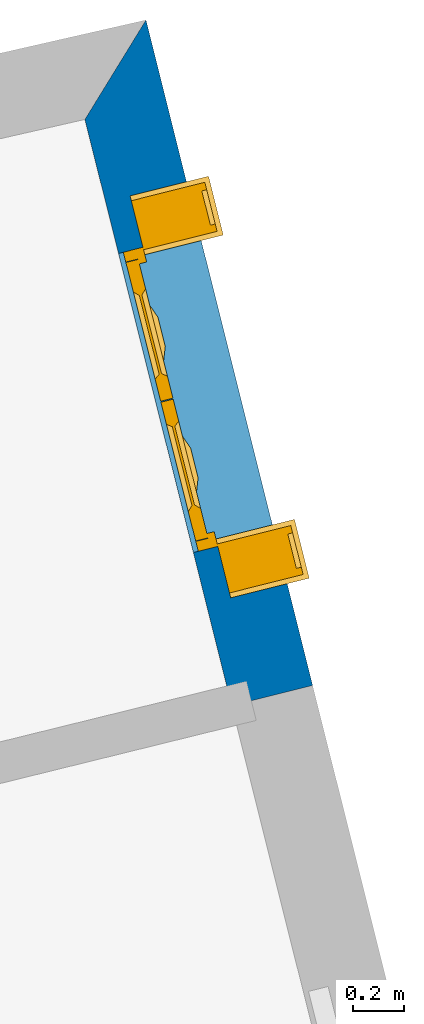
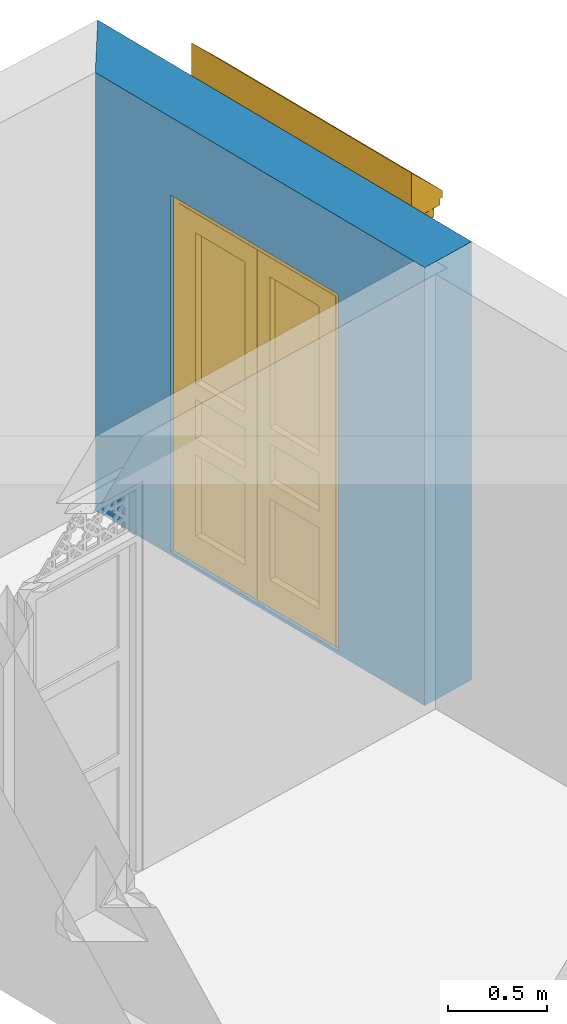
# One storey, part 11 of 12: 1 door, 1 wall, 1 opening.
"""IFC4 building model written with IfcOpenShell, lengths in metres."""

from ifc_helpers import new_model, si_unit, frame, origin, origin_with_axes, place, context, subcontext, project, spatial, polyline, outline, extrude, faceted_brep, source, transform, mapped, material, layer, layer_set, layer_usage, type_object, type_shapes, element, fill, save


model = new_model("IFC4")

# Units and contexts
model_context = context("Model", 3, world=origin_with_axes())
body_context = subcontext(model_context, "Body", "Model", "MODEL_VIEW")
ifc_project = project(units=[si_unit("PLANEANGLEUNIT", "RADIAN"), si_unit("MASSUNIT", "GRAM", prefix="KILO"), si_unit("FORCEUNIT", "NEWTON", prefix="KILO"), si_unit("LENGTHUNIT", "METRE"), si_unit("AREAUNIT", "SQUARE_METRE"), si_unit("VOLUMEUNIT", "CUBIC_METRE")], contexts=[model_context, model_context])

# Site, building, storey
site_placement = place(None, origin_with_axes())
site = spatial("IfcSite", under=ifc_project, at=site_placement, Name="Site plot-1", CompositionType="ELEMENT")
building_placement = place(None, origin_with_axes())
building = spatial("IfcBuilding", under=site, at=building_placement, Name="Building plot-1", CompositionType="ELEMENT")
storey_placement = place(None, origin_with_axes())
storey = spatial("IfcBuildingStorey", under=building, at=storey_placement, Name="plot-1 0", CompositionType="ELEMENT", Elevation=0.0)

# Wall, opening, door
ifc_material = material(Name="Masonry")
ifc_layer = layer(ifc_material, 0.33, ventilated=False)
ifc_layer_set = layer_set([ifc_layer], Name="exterior_0.08_0.25")
ifc_layer_usage = layer_usage(ifc_layer_set, "AXIS2", "POSITIVE", -0.25)
wall_type = type_object("IfcWallType", Name="exterior_0.08_0.25", PredefinedType="SOLIDWALL", material=ifc_layer_set)
wall_placement = place(storey_placement, frame((4.85901537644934, 24.6384675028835, 0.0), z_axis=(0.0, 0.0, 1.0), x_axis=(-0.242972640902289, 0.970033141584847, 0.0)))
wall = element("IfcWall", 1, at=wall_placement, inside=storey, type_object=wall_type, material=ifc_layer_usage, Name="exterior", context=body_context, shape_type="SweptSolid", body=[
    extrude(outline(polyline([(-4.03663485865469e-16, 0.0800000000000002), (1.56962031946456e-15, -0.249999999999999), (2.71479981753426, -0.25), (2.39181178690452, 0.0800000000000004), (-4.03663485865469e-16, 0.0800000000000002)])), origin_with_axes(), (0.0, 0.0, 1.0), 2.7),
])
opening_placement = place(wall_placement, frame((0.625055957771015, 0.0, 0.02)))
opening = element("IfcOpeningElement", 2, at=opening_placement, cuts=wall, Name="My Opening", ObjectType="Opening", context=body_context, shape_type="SweptSolid", body=[
    extrude(outline(polyline([(0.0, -0.27), (1.22, -0.270000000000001), (1.22, 1.1), (-3.77475828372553e-15, 1.1), (0.0, -0.27)])), origin_with_axes(), (0.0, 0.0, 1.0), 2.2),
])
door_type = type_object("IfcDoorType", Name="tunis_entry_short", OperationType="SINGLE_SWING_LEFT", PredefinedType="NOTDEFINED")
shared_shape = source(origin(), body_context, "Body", "Brep", [
    faceted_brep([(0.608, 0.33, 2.158), (0.042, 0.33, 2.158), (0.042, 0.28, 2.158), (0.608, 0.28, 2.158), (0.518, 0.33, 2.038), (0.162, 0.33, 2.038), (0.608, 0.33, 1.11), (0.608, 0.28, 1.11), (0.162, 0.28, 2.038), (0.518, 0.28, 2.038), (0.042, 0.33, 1.11), (0.042, 0.28, 1.11), (0.503, 0.31, 2.018), (0.182, 0.31, 2.018), (0.518, 0.33, 1.11), (0.162, 0.33, 1.11), (0.608, 0.28, 1.01), (0.608, 0.33, 1.01), (0.518, 0.28, 1.11), (0.182, 0.3, 2.018), (0.503, 0.3, 2.018), (0.162, 0.28, 1.11), (0.042, 0.33, 1.01), (0.042, 0.28, 1.01), (0.182, 0.31, 1.13), (0.503, 0.31, 1.13), (0.518, 0.33, 1.01), (0.162, 0.33, 1.01), (0.608, 0.28, 0.77), (0.608, 0.33, 0.77), (0.518, 0.28, 1.01), (0.503, 0.3, 1.13), (0.182, 0.3, 1.13), (0.162, 0.28, 1.01), (0.042, 0.33, 0.77), (0.042, 0.28, 0.77), (0.518, 0.33, 0.77), (0.162, 0.33, 0.77), (0.608, 0.28, 0.67), (0.608, 0.33, 0.67), (0.518, 0.28, 0.77), (0.162, 0.28, 0.77), (0.042, 0.33, 0.67), (0.042, 0.28, 0.67), (0.503, 0.31, 0.99), (0.182, 0.31, 0.99), (0.503, 0.31, 0.79), (0.518, 0.33, 0.67), (0.162, 0.33, 0.67), (0.182, 0.31, 0.79), (0.608, 0.33, 0.0), (0.608, 0.28, 0.0), (0.518, 0.28, 0.67), (0.503, 0.3, 0.99), (0.503, 0.3, 0.79), (0.182, 0.3, 0.99), (0.182, 0.3, 0.79), (0.162, 0.28, 0.67), (0.042, 0.28, 0.0), (0.042, 0.33, 0.0), (0.518, 0.33, 0.17), (0.162, 0.33, 0.17), (0.518, 0.28, 0.17), (0.483, 0.3, 0.97), (0.483, 0.3, 0.81), (0.202, 0.3, 0.97), (0.202, 0.3, 0.81), (0.162, 0.28, 0.17), (0.503, 0.31, 0.65), (0.182, 0.31, 0.65), (0.503, 0.31, 0.19), (0.182, 0.31, 0.19), (0.503, 0.3, 0.65), (0.503, 0.3, 0.19), (0.182, 0.3, 0.65), (0.483, 0.29, 0.97), (0.483, 0.29, 0.81), (0.202, 0.29, 0.97), (0.202, 0.29, 0.81), (0.182, 0.3, 0.19), (0.403, 0.26, 0.89), (0.282, 0.26, 0.89), (1.178, 0.33, 2.158), (0.612, 0.33, 2.158), (0.612, 0.28, 2.158), (1.178, 0.28, 2.158), (1.058, 0.33, 2.038), (0.702, 0.33, 2.038), (0.612, 0.33, 1.11), (0.612, 0.28, 1.11), (0.702, 0.28, 2.038), (1.058, 0.28, 2.038), (1.178, 0.28, 1.11), (1.178, 0.33, 1.11), (1.038, 0.31, 2.018), (0.717, 0.31, 2.018), (0.702, 0.33, 1.11), (1.058, 0.33, 1.11), (0.612, 0.33, 1.01), (0.612, 0.28, 1.01), (0.702, 0.28, 1.11), (0.717, 0.3, 2.018), (1.038, 0.3, 2.018), (1.058, 0.28, 1.11), (1.178, 0.28, 1.01), (1.178, 0.33, 1.01), (1.038, 0.31, 1.13), (0.717, 0.31, 1.13), (0.702, 0.33, 1.01), (1.058, 0.33, 1.01), (0.612, 0.33, 0.77), (0.612, 0.28, 0.77), (0.702, 0.28, 1.01), (0.717, 0.3, 1.13), (1.038, 0.3, 1.13), (1.058, 0.28, 1.01), (1.178, 0.28, 0.77), (1.178, 0.33, 0.77), (0.702, 0.33, 0.77), (1.058, 0.33, 0.77), (0.612, 0.33, 0.67), (0.612, 0.28, 0.67), (0.702, 0.28, 0.77), (1.058, 0.28, 0.77), (1.178, 0.28, 0.67), (1.178, 0.33, 0.67), (1.038, 0.31, 0.99), (0.717, 0.31, 0.99), (0.717, 0.31, 0.79), (0.702, 0.33, 0.67), (1.058, 0.33, 0.67), (1.038, 0.31, 0.79), (0.612, 0.28, 0.0), (0.612, 0.33, 0.0), (0.702, 0.28, 0.67), (0.717, 0.3, 0.79), (0.717, 0.3, 0.99), (1.038, 0.3, 0.99), (1.038, 0.3, 0.79), (1.058, 0.28, 0.67), (1.178, 0.33, 0.0), (1.178, 0.28, 0.0), (0.702, 0.33, 0.17), (1.058, 0.33, 0.17), (0.702, 0.28, 0.17), (0.737, 0.3, 0.81), (0.737, 0.3, 0.97), (1.018, 0.3, 0.97), (1.018, 0.3, 0.81), (1.058, 0.28, 0.17), (1.038, 0.31, 0.65), (0.717, 0.31, 0.65), (0.717, 0.31, 0.19), (1.038, 0.31, 0.19), (0.717, 0.3, 0.19), (0.717, 0.3, 0.65), (1.038, 0.3, 0.65), (0.737, 0.29, 0.81), (0.737, 0.29, 0.97), (1.018, 0.29, 0.97), (1.018, 0.29, 0.81), (1.038, 0.3, 0.19), (0.817, 0.26, 0.89), (0.938, 0.26, 0.89), (1.37, -0.058, 2.42), (1.37, -0.045, 2.407001), (1.41, -0.045, 2.407001), (1.41, -0.058, 2.42), (1.37, -0.075, 2.485001), (1.37, 0.0, 2.485001), (1.37, -0.04, 2.39), (1.41, -0.04, 2.39), (1.41, 0.0, 2.485001), (1.41, -0.075, 2.485001), (1.37, -0.075, 2.425), (1.41, -0.075, 2.425), (1.37, -0.082, 2.51), (1.37, 0.0, 2.59), (1.37, 0.0, 2.39), (1.41, 0.0, 2.39), (1.41, 0.0, 2.59), (1.41, -0.082, 2.51), (1.37, -0.1, 2.528), (1.41, -0.1, 2.528), (1.37, -0.125, 2.535), (1.37, -0.137, 2.59), (1.41, -0.137, 2.59), (1.41, -0.125, 2.535), (1.37, -0.137, 2.535), (1.41, -0.137, 2.535), (1.214, -0.058, 2.42), (1.214, -0.045, 2.407001), (1.254, -0.045, 2.407001), (1.254, -0.058, 2.42), (1.214, -0.075, 2.485001), (1.214, 0.0, 2.485001), (1.214, -0.04, 2.39), (1.254, -0.04, 2.39), (1.254, 0.0, 2.485001), (1.254, -0.075, 2.485001), (1.214, -0.075, 2.425), (1.254, -0.075, 2.425), (1.214, -0.082, 2.51), (1.214, 0.0, 2.59), (1.214, 0.0, 2.39), (1.254, 0.0, 2.39), (1.254, 0.0, 2.59), (1.254, -0.082, 2.51), (1.214, -0.1, 2.528), (1.254, -0.1, 2.528), (1.214, -0.125, 2.535), (1.214, -0.137, 2.59), (1.254, -0.137, 2.59), (1.254, -0.125, 2.535), (1.214, -0.137, 2.535), (1.254, -0.137, 2.535), (1.058, -0.058, 2.42), (1.058, -0.045, 2.407001), (1.098, -0.045, 2.407001), (1.098, -0.058, 2.42), (1.058, -0.075, 2.485001), (1.058, 0.0, 2.485001), (1.058, -0.04, 2.39), (1.098, -0.04, 2.39), (1.098, 0.0, 2.485001), (1.098, -0.075, 2.485001), (1.058, -0.075, 2.425), (1.098, -0.075, 2.425), (1.058, -0.082, 2.51), (1.058, 0.0, 2.59), (1.058, 0.0, 2.39), (1.098, 0.0, 2.39), (1.098, 0.0, 2.59), (1.098, -0.082, 2.51), (1.058, -0.1, 2.528), (1.098, -0.1, 2.528), (1.058, -0.125, 2.535), (1.058, -0.137, 2.59), (1.098, -0.137, 2.59), (1.098, -0.125, 2.535), (1.058, -0.137, 2.535), (1.098, -0.137, 2.535), (0.902, -0.058, 2.42), (0.902, -0.045, 2.407001), (0.942, -0.045, 2.407001), (0.942, -0.058, 2.42), (0.902, -0.075, 2.485001), (0.902, 0.0, 2.485001), (0.902, -0.04, 2.39), (0.942, -0.04, 2.39), (0.942, 0.0, 2.485001), (0.942, -0.075, 2.485001), (0.902, -0.075, 2.425), (0.942, -0.075, 2.425), (0.902, -0.082, 2.51), (0.902, 0.0, 2.59), (0.902, 0.0, 2.39), (0.942, 0.0, 2.39), (0.942, 0.0, 2.59), (0.942, -0.082, 2.51), (0.902, -0.1, 2.528), (0.942, -0.1, 2.528), (0.902, -0.125, 2.535), (0.902, -0.137, 2.59), (0.942, -0.137, 2.59), (0.942, -0.125, 2.535), (0.902, -0.137, 2.535), (0.942, -0.137, 2.535), (0.746, -0.058, 2.42), (0.746, -0.045, 2.407001), (0.786, -0.045, 2.407001), (0.786, -0.058, 2.42), (0.746, -0.075, 2.485001), (0.746, 0.0, 2.485001), (0.746, -0.04, 2.39), (0.786, -0.04, 2.39), (0.786, 0.0, 2.485001), (0.786, -0.075, 2.485001), (0.746, -0.075, 2.425), (0.786, -0.075, 2.425), (0.746, -0.082, 2.51), (0.746, 0.0, 2.59), (0.746, 0.0, 2.39), (0.786, 0.0, 2.39), (0.786, 0.0, 2.59), (0.786, -0.082, 2.51), (0.746, -0.1, 2.528), (0.786, -0.1, 2.528), (0.746, -0.125, 2.535), (0.746, -0.137, 2.59), (0.786, -0.137, 2.59), (0.786, -0.125, 2.535), (0.746, -0.137, 2.535), (0.786, -0.137, 2.535), (0.59, -0.058, 2.42), (0.59, -0.045, 2.407001), (0.63, -0.045, 2.407001), (0.63, -0.058, 2.42), (0.59, -0.075, 2.485001), (0.59, 0.0, 2.485001), (0.59, -0.04, 2.39), (0.63, -0.04, 2.39), (0.63, 0.0, 2.485001), (0.63, -0.075, 2.485001), (0.59, -0.075, 2.425), (0.63, -0.075, 2.425), (0.59, -0.082, 2.51), (0.59, 0.0, 2.59), (0.59, 0.0, 2.39), (0.63, 0.0, 2.39), (0.63, 0.0, 2.59), (0.63, -0.082, 2.51), (0.59, -0.1, 2.528), (0.63, -0.1, 2.528), (0.59, -0.125, 2.535), (0.59, -0.137, 2.59), (0.63, -0.137, 2.59), (0.63, -0.125, 2.535), (0.59, -0.137, 2.535), (0.63, -0.137, 2.535), (0.434, -0.058, 2.42), (0.434, -0.045, 2.407001), (0.474, -0.045, 2.407001), (0.474, -0.058, 2.42), (0.434, -0.075, 2.485001), (0.434, 0.0, 2.485001), (0.434, -0.04, 2.39), (0.474, -0.04, 2.39), (0.474, 0.0, 2.485001), (0.474, -0.075, 2.485001), (0.434, -0.075, 2.425), (0.474, -0.075, 2.425), (0.434, -0.082, 2.51), (0.434, 0.0, 2.59), (0.434, 0.0, 2.39), (0.474, 0.0, 2.39), (0.474, 0.0, 2.59), (0.474, -0.082, 2.51), (0.434, -0.1, 2.528), (0.474, -0.1, 2.528), (0.434, -0.125, 2.535), (0.434, -0.137, 2.59), (0.474, -0.137, 2.59), (0.474, -0.125, 2.535), (0.434, -0.137, 2.535), (0.474, -0.137, 2.535), (0.278, -0.058, 2.42), (0.278, -0.045, 2.407001), (0.318, -0.045, 2.407001), (0.318, -0.058, 2.42), (0.278, -0.075, 2.485001), (0.278, 0.0, 2.485001), (0.278, -0.04, 2.39), (0.318, -0.04, 2.39), (0.318, 0.0, 2.485001), (0.318, -0.075, 2.485001), (0.278, -0.075, 2.425), (0.318, -0.075, 2.425), (0.278, -0.082, 2.51), (0.278, 0.0, 2.59), (0.278, 0.0, 2.39), (0.318, 0.0, 2.39), (0.318, 0.0, 2.59), (0.318, -0.082, 2.51), (0.278, -0.1, 2.528), (0.318, -0.1, 2.528), (0.278, -0.125, 2.535), (0.278, -0.137, 2.59), (0.318, -0.137, 2.59), (0.318, -0.125, 2.535), (0.278, -0.137, 2.535), (0.318, -0.137, 2.535), (0.122, -0.058, 2.42), (0.122, -0.045, 2.407001), (0.162, -0.045, 2.407001), (0.162, -0.058, 2.42), (0.122, -0.075, 2.485001), (0.122, 0.0, 2.485001), (0.122, -0.04, 2.39), (0.162, -0.04, 2.39), (0.162, 0.0, 2.485001), (0.162, -0.075, 2.485001), (0.122, -0.075, 2.425), (0.162, -0.075, 2.425), (0.122, -0.082, 2.51), (0.122, 0.0, 2.59), (0.122, 0.0, 2.39), (0.162, 0.0, 2.39), (0.162, 0.0, 2.59), (0.162, -0.082, 2.51), (0.122, -0.1, 2.528), (0.162, -0.1, 2.528), (0.122, -0.125, 2.535), (0.122, -0.137, 2.59), (0.162, -0.137, 2.59), (0.162, -0.125, 2.535), (0.122, -0.137, 2.535), (0.162, -0.137, 2.535), (-0.034, -0.058, 2.42), (-0.034, -0.045, 2.407001), (0.006, -0.045, 2.407001), (0.006, -0.058, 2.42), (-0.034, -0.075, 2.485001), (-0.034, 0.0, 2.485001), (-0.034, -0.04, 2.39), (0.006, -0.04, 2.39), (0.006, 0.0, 2.485001), (0.006, -0.075, 2.485001), (-0.034, -0.075, 2.425), (0.006, -0.075, 2.425), (-0.034, -0.082, 2.51), (-0.034, 0.0, 2.59), (-0.034, 0.0, 2.39), (0.006, 0.0, 2.39), (0.006, 0.0, 2.59), (0.006, -0.082, 2.51), (-0.034, -0.1, 2.528), (0.006, -0.1, 2.528), (-0.034, -0.125, 2.535), (-0.034, -0.137, 2.59), (0.006, -0.137, 2.59), (0.006, -0.125, 2.535), (-0.034, -0.137, 2.535), (0.006, -0.137, 2.535), (-0.19, -0.058, 2.42), (-0.19, -0.045, 2.407001), (-0.15, -0.045, 2.407001), (-0.15, -0.058, 2.42), (-0.19, -0.075, 2.485001), (-0.19, 0.0, 2.485001), (-0.19, -0.04, 2.39), (-0.15, -0.04, 2.39), (-0.15, 0.0, 2.485001), (-0.15, -0.075, 2.485001), (-0.19, -0.075, 2.425), (-0.15, -0.075, 2.425), (-0.19, -0.082, 2.51), (-0.19, 0.0, 2.59), (-0.19, 0.0, 2.39), (-0.15, 0.0, 2.39), (-0.15, 0.0, 2.59), (-0.15, -0.082, 2.51), (-0.19, -0.1, 2.528), (-0.15, -0.1, 2.528), (-0.19, -0.125, 2.535), (-0.19, -0.137, 2.59), (-0.15, -0.137, 2.59), (-0.15, -0.125, 2.535), (-0.19, -0.137, 2.535), (-0.15, -0.137, 2.535), (1.18, 0.33, 0.0), (1.18, 0.33, 2.16), (1.22, 0.33, 2.2), (1.22, 0.33, 0.0), (1.18, 0.28, 0.0), (1.18, 0.28, 2.16), (1.22, 0.25, 2.2), (1.22, 0.25, 0.0), (1.16, 0.28, 0.0), (1.16, 0.28, 2.14), (0.04, 0.28, 2.16), (0.04, 0.33, 2.16), (1.16, 0.25, 2.14), (1.16, 0.25, 0.0), (0.06, 0.28, 2.14), (0.04, 0.33, 0.0), (0.04, 0.28, 0.0), (0.0, 0.33, 2.2), (0.06, 0.25, 2.14), (0.06, 0.28, 0.0), (0.0, 0.33, 0.0), (0.0, 0.25, 0.0), (0.0, 0.25, 2.2), (0.06, 0.25, 0.0), (-0.19, -0.197, 2.67), (-0.19, 0.020086, 2.882274), (-0.19, -0.177, 2.63), (-0.19, -0.197, 2.63), (1.41, -0.197, 2.67), (1.41, 0.020086, 2.882274), (-0.19, -0.177, 2.59), (-0.19, 0.020086, 2.592274), (1.41, -0.197, 2.63), (1.41, -0.177, 2.63), (1.41, 0.020086, 2.592274), (1.41, -0.177, 2.59), (-0.02, -0.05, 0.48), (-0.16, -0.05, 0.48), (-0.19, -0.05, 0.45), (0.01, -0.05, 0.45), (-0.02, -0.03, 0.48), (-0.16, -0.03, 0.48), (-0.16, -0.05, 2.19), (-0.19, -0.05, 2.19), (-0.21, -0.07, 0.45), (0.03, -0.07, 0.45), (0.01, -0.05, 2.19), (-0.02, -0.05, 2.19), (-0.02, -0.03, 2.19), (-0.16, -0.03, 2.19), (-0.19, -0.05, 2.22), (-0.16, -0.05, 2.22), (-0.19, 0.25, 2.19), (-0.19, 0.25, 0.45), (-0.21, 0.25, 0.45), (-0.21, -0.07, 0.0), (0.03, -0.07, 0.0), (0.01, 0.25, 0.45), (0.03, 0.25, 0.45), (0.01, 0.25, 2.19), (0.03, 0.25, 0.0), (-0.21, 0.25, 0.0), (-0.02, -0.05, 2.22), (0.01, -0.05, 2.22), (-0.19, 0.25, 2.22), (-0.19, -0.05, 2.39), (-0.16, -0.05, 2.36), (1.21, 0.25, 2.19), (1.21, -0.05, 2.19), (-0.02, 0.25, 2.22), (1.21, -0.05, 2.22), (0.01, -0.05, 2.36), (-0.02, -0.05, 2.36), (-0.19, 0.25, 2.39), (-0.02, -0.03, 2.22), (-0.16, -0.03, 2.22), (-0.16, -0.03, 2.36), (-0.02, -0.05, 2.39), (0.01, 0.25, 2.39), (1.21, 0.25, 2.39), (1.21, 0.25, 0.45), (1.21, -0.05, 0.45), (-0.02, 0.25, 2.39), (1.24, -0.05, 2.19), (1.24, -0.05, 2.22), (1.21, -0.03, 2.22), (0.01, -0.03, 2.22), (0.01, -0.03, 2.36), (0.01, -0.05, 2.39), (-0.02, -0.03, 2.36), (1.21, -0.05, 2.39), (1.24, 0.25, 2.22), (1.24, 0.25, 2.39), (1.41, 0.25, 2.19), (1.41, 0.25, 0.45), (1.19, 0.25, 0.45), (1.19, -0.07, 0.45), (1.24, -0.05, 0.48), (1.38, -0.05, 2.19), (1.38, -0.05, 2.22), (1.21, -0.05, 2.36), (1.24, -0.05, 2.36), (1.21, -0.03, 2.36), (1.24, -0.05, 2.39), (1.41, 0.25, 2.22), (1.41, 0.25, 2.39), (1.41, -0.05, 2.19), (1.41, -0.05, 0.45), (1.43, 0.25, 0.0), (1.19, 0.25, 0.0), (1.19, -0.07, 0.0), (1.43, -0.07, 0.45), (1.24, -0.03, 0.48), (1.24, -0.03, 2.19), (1.38, -0.05, 0.48), (1.38, -0.03, 2.19), (1.41, -0.05, 2.22), (1.38, -0.03, 2.22), (1.24, -0.03, 2.22), (1.24, -0.03, 2.36), (1.41, -0.05, 2.39), (1.43, 0.25, 0.45), (1.43, -0.07, 0.0), (1.38, -0.03, 0.48), (1.38, -0.05, 2.36), (1.38, -0.03, 2.36)], [[[0, 1, 2, 3]], [[1, 0, 4, 5]], [[6, 0, 3, 7]], [[3, 2, 8, 9]], [[1, 10, 11, 2]], [[12, 13, 5, 4]], [[0, 6, 14, 4]], [[5, 15, 10, 1]], [[7, 16, 17, 6]], [[9, 18, 7, 3]], [[19, 20, 9, 8]], [[2, 11, 21, 8]], [[10, 22, 23, 11]], [[13, 24, 15, 5]], [[24, 13, 12, 25]], [[25, 12, 4, 14]], [[26, 14, 6, 17]], [[15, 27, 22, 10]], [[16, 28, 29, 17]], [[16, 7, 18, 30]], [[20, 31, 18, 9]], [[19, 32, 31, 20]], [[32, 19, 8, 21]], [[11, 23, 33, 21]], [[22, 34, 35, 23]], [[24, 25, 14, 15]], [[14, 26, 27, 15]], [[36, 26, 17, 29]], [[27, 37, 34, 22]], [[28, 38, 39, 29]], [[30, 40, 28, 16]], [[30, 18, 21, 33]], [[31, 32, 21, 18]], [[41, 33, 23, 35]], [[34, 42, 43, 35]], [[44, 45, 27, 26]], [[46, 44, 26, 36]], [[29, 39, 47, 36]], [[37, 48, 42, 34]], [[45, 49, 37, 27]], [[50, 39, 38, 51]], [[40, 52, 38, 28]], [[53, 54, 40, 30]], [[55, 53, 30, 33]], [[56, 55, 33, 41]], [[57, 41, 35, 43]], [[58, 43, 42, 59]], [[44, 46, 49, 45]], [[49, 46, 36, 37]], [[36, 47, 48, 37]], [[60, 47, 39, 50]], [[59, 42, 48, 61]], [[51, 38, 52, 62]], [[51, 58, 59, 50]], [[52, 40, 41, 57]], [[54, 56, 41, 40]], [[63, 64, 54, 53]], [[53, 55, 65, 63]], [[55, 56, 66, 65]], [[67, 57, 43, 58]], [[68, 69, 48, 47]], [[70, 68, 47, 60]], [[61, 60, 50, 59]], [[69, 71, 61, 48]], [[72, 73, 62, 52]], [[58, 51, 62, 67]], [[74, 72, 52, 57]], [[64, 66, 56, 54]], [[75, 76, 64, 63]], [[77, 75, 63, 65]], [[78, 77, 65, 66]], [[79, 74, 57, 67]], [[68, 70, 71, 69]], [[71, 70, 60, 61]], [[73, 79, 67, 62]], [[73, 72, 74, 79]], [[76, 78, 66, 64]], [[80, 76, 75]], [[81, 80, 75, 77]], [[81, 77, 78]], [[78, 76, 80, 81]], [[82, 83, 84, 85]], [[86, 87, 83, 82]], [[83, 88, 89, 84]], [[90, 91, 85, 84]], [[85, 92, 93, 82]], [[87, 86, 94, 95]], [[87, 96, 88, 83]], [[82, 93, 97, 86]], [[88, 98, 99, 89]], [[84, 89, 100, 90]], [[91, 90, 101, 102]], [[91, 103, 92, 85]], [[92, 104, 105, 93]], [[86, 97, 106, 94]], [[107, 95, 94, 106]], [[96, 87, 95, 107]], [[98, 88, 96, 108]], [[93, 105, 109, 97]], [[98, 110, 111, 99]], [[112, 100, 89, 99]], [[90, 100, 113, 101]], [[101, 113, 114, 102]], [[103, 91, 102, 114]], [[103, 115, 104, 92]], [[104, 116, 117, 105]], [[97, 96, 107, 106]], [[97, 109, 108, 96]], [[110, 98, 108, 118]], [[105, 117, 119, 109]], [[110, 120, 121, 111]], [[99, 111, 122, 112]], [[115, 103, 100, 112]], [[100, 103, 114, 113]], [[116, 104, 115, 123]], [[116, 124, 125, 117]], [[108, 109, 126, 127]], [[118, 108, 127, 128]], [[118, 129, 120, 110]], [[117, 125, 130, 119]], [[109, 119, 131, 126]], [[132, 121, 120, 133]], [[111, 121, 134, 122]], [[112, 122, 135, 136]], [[115, 112, 136, 137]], [[123, 115, 137, 138]], [[124, 116, 123, 139]], [[140, 125, 124, 141]], [[126, 131, 128, 127]], [[119, 118, 128, 131]], [[119, 130, 129, 118]], [[133, 120, 129, 142]], [[143, 130, 125, 140]], [[144, 134, 121, 132]], [[133, 140, 141, 132]], [[139, 123, 122, 134]], [[122, 123, 138, 135]], [[136, 135, 145, 146]], [[146, 147, 137, 136]], [[147, 148, 138, 137]], [[141, 124, 139, 149]], [[129, 130, 150, 151]], [[142, 129, 151, 152]], [[140, 133, 142, 143]], [[130, 143, 153, 150]], [[134, 144, 154, 155]], [[149, 144, 132, 141]], [[139, 134, 155, 156]], [[135, 138, 148, 145]], [[146, 145, 157, 158]], [[147, 146, 158, 159]], [[148, 147, 159, 160]], [[149, 139, 156, 161]], [[150, 153, 152, 151]], [[143, 142, 152, 153]], [[144, 149, 161, 154]], [[161, 156, 155, 154]], [[145, 148, 160, 157]], [[158, 157, 162]], [[159, 158, 162, 163]], [[160, 159, 163]], [[163, 162, 157, 160]], [[164, 165, 166, 167]], [[168, 169, 165, 164]], [[166, 165, 170, 171]], [[167, 166, 172, 173]], [[174, 164, 167, 175]], [[168, 176, 177, 169]], [[170, 165, 169, 178]], [[174, 168, 164]], [[170, 178, 179, 171]], [[179, 172, 166, 171]], [[172, 180, 181, 173]], [[175, 167, 173]], [[168, 174, 175, 173]], [[176, 168, 173, 181]], [[176, 182, 177]], [[180, 172, 169, 177]], [[178, 169, 172, 179]], [[183, 181, 180]], [[182, 176, 181, 183]], [[182, 184, 185, 177]], [[177, 185, 186, 180]], [[187, 183, 180, 186]], [[182, 183, 187, 184]], [[188, 185, 184]], [[189, 186, 185, 188]], [[189, 187, 186]], [[184, 187, 189, 188]], [[190, 191, 192, 193]], [[194, 195, 191, 190]], [[192, 191, 196, 197]], [[193, 192, 198, 199]], [[200, 190, 193, 201]], [[194, 202, 203, 195]], [[196, 191, 195, 204]], [[200, 194, 190]], [[196, 204, 205, 197]], [[205, 198, 192, 197]], [[198, 206, 207, 199]], [[201, 193, 199]], [[194, 200, 201, 199]], [[202, 194, 199, 207]], [[202, 208, 203]], [[206, 198, 195, 203]], [[204, 195, 198, 205]], [[209, 207, 206]], [[208, 202, 207, 209]], [[208, 210, 211, 203]], [[203, 211, 212, 206]], [[213, 209, 206, 212]], [[208, 209, 213, 210]], [[214, 211, 210]], [[215, 212, 211, 214]], [[215, 213, 212]], [[210, 213, 215, 214]], [[216, 217, 218, 219]], [[220, 221, 217, 216]], [[218, 217, 222, 223]], [[219, 218, 224, 225]], [[226, 216, 219, 227]], [[220, 228, 229, 221]], [[222, 217, 221, 230]], [[226, 220, 216]], [[222, 230, 231, 223]], [[231, 224, 218, 223]], [[224, 232, 233, 225]], [[227, 219, 225]], [[220, 226, 227, 225]], [[228, 220, 225, 233]], [[228, 234, 229]], [[232, 224, 221, 229]], [[230, 221, 224, 231]], [[235, 233, 232]], [[234, 228, 233, 235]], [[234, 236, 237, 229]], [[229, 237, 238, 232]], [[239, 235, 232, 238]], [[234, 235, 239, 236]], [[240, 237, 236]], [[241, 238, 237, 240]], [[241, 239, 238]], [[236, 239, 241, 240]], [[242, 243, 244, 245]], [[246, 247, 243, 242]], [[244, 243, 248, 249]], [[245, 244, 250, 251]], [[252, 242, 245, 253]], [[246, 254, 255, 247]], [[248, 243, 247, 256]], [[252, 246, 242]], [[248, 256, 257, 249]], [[257, 250, 244, 249]], [[250, 258, 259, 251]], [[253, 245, 251]], [[246, 252, 253, 251]], [[254, 246, 251, 259]], [[254, 260, 255]], [[258, 250, 247, 255]], [[256, 247, 250, 257]], [[261, 259, 258]], [[260, 254, 259, 261]], [[260, 262, 263, 255]], [[255, 263, 264, 258]], [[265, 261, 258, 264]], [[260, 261, 265, 262]], [[266, 263, 262]], [[267, 264, 263, 266]], [[267, 265, 264]], [[262, 265, 267, 266]], [[268, 269, 270, 271]], [[272, 273, 269, 268]], [[270, 269, 274, 275]], [[271, 270, 276, 277]], [[278, 268, 271, 279]], [[272, 280, 281, 273]], [[274, 269, 273, 282]], [[278, 272, 268]], [[274, 282, 283, 275]], [[283, 276, 270, 275]], [[276, 284, 285, 277]], [[279, 271, 277]], [[272, 278, 279, 277]], [[280, 272, 277, 285]], [[280, 286, 281]], [[284, 276, 273, 281]], [[282, 273, 276, 283]], [[287, 285, 284]], [[286, 280, 285, 287]], [[286, 288, 289, 281]], [[281, 289, 290, 284]], [[291, 287, 284, 290]], [[286, 287, 291, 288]], [[292, 289, 288]], [[293, 290, 289, 292]], [[293, 291, 290]], [[288, 291, 293, 292]], [[294, 295, 296, 297]], [[298, 299, 295, 294]], [[296, 295, 300, 301]], [[297, 296, 302, 303]], [[304, 294, 297, 305]], [[298, 306, 307, 299]], [[300, 295, 299, 308]], [[304, 298, 294]], [[300, 308, 309, 301]], [[309, 302, 296, 301]], [[302, 310, 311, 303]], [[305, 297, 303]], [[298, 304, 305, 303]], [[306, 298, 303, 311]], [[306, 312, 307]], [[310, 302, 299, 307]], [[308, 299, 302, 309]], [[313, 311, 310]], [[312, 306, 311, 313]], [[312, 314, 315, 307]], [[307, 315, 316, 310]], [[317, 313, 310, 316]], [[312, 313, 317, 314]], [[318, 315, 314]], [[319, 316, 315, 318]], [[319, 317, 316]], [[314, 317, 319, 318]], [[320, 321, 322, 323]], [[324, 325, 321, 320]], [[322, 321, 326, 327]], [[323, 322, 328, 329]], [[330, 320, 323, 331]], [[324, 332, 333, 325]], [[326, 321, 325, 334]], [[330, 324, 320]], [[326, 334, 335, 327]], [[335, 328, 322, 327]], [[328, 336, 337, 329]], [[331, 323, 329]], [[324, 330, 331, 329]], [[332, 324, 329, 337]], [[332, 338, 333]], [[336, 328, 325, 333]], [[334, 325, 328, 335]], [[339, 337, 336]], [[338, 332, 337, 339]], [[338, 340, 341, 333]], [[333, 341, 342, 336]], [[343, 339, 336, 342]], [[338, 339, 343, 340]], [[344, 341, 340]], [[345, 342, 341, 344]], [[345, 343, 342]], [[340, 343, 345, 344]], [[346, 347, 348, 349]], [[350, 351, 347, 346]], [[348, 347, 352, 353]], [[349, 348, 354, 355]], [[356, 346, 349, 357]], [[350, 358, 359, 351]], [[352, 347, 351, 360]], [[356, 350, 346]], [[352, 360, 361, 353]], [[361, 354, 348, 353]], [[354, 362, 363, 355]], [[357, 349, 355]], [[350, 356, 357, 355]], [[358, 350, 355, 363]], [[358, 364, 359]], [[362, 354, 351, 359]], [[360, 351, 354, 361]], [[365, 363, 362]], [[364, 358, 363, 365]], [[364, 366, 367, 359]], [[359, 367, 368, 362]], [[369, 365, 362, 368]], [[364, 365, 369, 366]], [[370, 367, 366]], [[371, 368, 367, 370]], [[371, 369, 368]], [[366, 369, 371, 370]], [[372, 373, 374, 375]], [[376, 377, 373, 372]], [[374, 373, 378, 379]], [[375, 374, 380, 381]], [[382, 372, 375, 383]], [[376, 384, 385, 377]], [[378, 373, 377, 386]], [[382, 376, 372]], [[378, 386, 387, 379]], [[387, 380, 374, 379]], [[380, 388, 389, 381]], [[383, 375, 381]], [[376, 382, 383, 381]], [[384, 376, 381, 389]], [[384, 390, 385]], [[388, 380, 377, 385]], [[386, 377, 380, 387]], [[391, 389, 388]], [[390, 384, 389, 391]], [[390, 392, 393, 385]], [[385, 393, 394, 388]], [[395, 391, 388, 394]], [[390, 391, 395, 392]], [[396, 393, 392]], [[397, 394, 393, 396]], [[397, 395, 394]], [[392, 395, 397, 396]], [[398, 399, 400, 401]], [[402, 403, 399, 398]], [[400, 399, 404, 405]], [[401, 400, 406, 407]], [[408, 398, 401, 409]], [[402, 410, 411, 403]], [[404, 399, 403, 412]], [[408, 402, 398]], [[404, 412, 413, 405]], [[413, 406, 400, 405]], [[406, 414, 415, 407]], [[409, 401, 407]], [[402, 408, 409, 407]], [[410, 402, 407, 415]], [[410, 416, 411]], [[414, 406, 403, 411]], [[412, 403, 406, 413]], [[417, 415, 414]], [[416, 410, 415, 417]], [[416, 418, 419, 411]], [[411, 419, 420, 414]], [[421, 417, 414, 420]], [[416, 417, 421, 418]], [[422, 419, 418]], [[423, 420, 419, 422]], [[423, 421, 420]], [[418, 421, 423, 422]], [[424, 425, 426, 427]], [[428, 429, 425, 424]], [[426, 425, 430, 431]], [[427, 426, 432, 433]], [[434, 424, 427, 435]], [[428, 436, 437, 429]], [[430, 425, 429, 438]], [[434, 428, 424]], [[430, 438, 439, 431]], [[439, 432, 426, 431]], [[432, 440, 441, 433]], [[435, 427, 433]], [[428, 434, 435, 433]], [[436, 428, 433, 441]], [[436, 442, 437]], [[440, 432, 429, 437]], [[438, 429, 432, 439]], [[443, 441, 440]], [[442, 436, 441, 443]], [[442, 444, 445, 437]], [[437, 445, 446, 440]], [[447, 443, 440, 446]], [[442, 443, 447, 444]], [[448, 445, 444]], [[449, 446, 445, 448]], [[449, 447, 446]], [[444, 447, 449, 448]], [[450, 451, 452, 453]], [[454, 455, 451, 450]], [[453, 452, 456, 457]], [[453, 457, 454, 450]], [[458, 459, 455, 454]], [[455, 460, 461, 451]], [[457, 456, 462, 463]], [[458, 454, 457, 463]], [[463, 462, 459, 458]], [[459, 464, 460, 455]], [[465, 461, 460, 466]], [[451, 461, 467, 452]], [[464, 459, 462, 468]], [[466, 460, 464, 469]], [[470, 467, 461, 465]], [[465, 466, 471, 470]], [[456, 452, 467, 472]], [[469, 464, 468, 473]], [[473, 471, 466, 469]], [[471, 472, 467, 470]], [[468, 462, 456, 472]], [[473, 468, 472, 471]], [[474, 475, 476, 477]], [[478, 479, 475, 474]], [[480, 476, 475, 481]], [[482, 477, 476, 483]], [[474, 477, 482, 478]], [[482, 483, 479, 478]], [[484, 481, 475, 479]], [[485, 483, 476, 480]], [[484, 485, 480, 481]], [[484, 479, 483, 485]], [[486, 487, 488, 489]], [[487, 486, 490, 491]], [[487, 492, 493, 488]], [[489, 488, 494, 495]], [[489, 496, 497, 486]], [[486, 497, 498, 490]], [[491, 490, 498, 499]], [[492, 487, 491, 499]], [[500, 493, 492, 501]], [[488, 493, 502, 503]], [[488, 503, 504, 494]], [[505, 506, 495, 494]], [[507, 489, 495, 508]], [[496, 489, 507, 509]], [[510, 511, 503, 507]], [[503, 502, 509, 507]], [[512, 497, 496, 513]], [[497, 492, 499, 498]], [[514, 502, 493, 500]], [[492, 497, 512, 501]], [[515, 500, 501, 516]], [[504, 503, 511]], [[505, 494, 504, 511]], [[511, 510, 506, 505]], [[508, 495, 506, 510]], [[508, 510, 507]], [[496, 509, 517, 518]], [[514, 519, 509, 502]], [[496, 518, 520, 513]], [[513, 521, 522, 512]], [[523, 514, 500, 515]], [[501, 512, 524, 525]], [[516, 501, 525, 526]], [[516, 522, 527, 515]], [[517, 509, 528, 529]], [[517, 530, 531, 518]], [[523, 532, 519, 514]], [[532, 528, 509, 519]], [[518, 533, 534, 520]], [[513, 520, 535, 536]], [[521, 513, 536, 537]], [[522, 521, 538, 527]], [[512, 522, 539, 524]], [[515, 527, 532, 523]], [[525, 524, 539, 526]], [[522, 516, 526, 539]], [[538, 540, 529, 528]], [[541, 517, 529, 542]], [[530, 517, 543, 544]], [[531, 530, 545, 546]], [[547, 533, 518, 531]], [[527, 538, 528, 532]], [[533, 548, 549, 534]], [[550, 520, 534, 551]], [[520, 550, 552, 535]], [[552, 537, 536, 535]], [[550, 521, 537, 552]], [[521, 550, 540, 538]], [[542, 529, 540, 553]], [[543, 517, 541, 554]], [[555, 554, 541, 542]], [[544, 543, 556, 557]], [[558, 559, 530, 544]], [[545, 530, 559]], [[560, 546, 545, 559]], [[557, 531, 546, 561]], [[533, 547, 562, 563]], [[564, 547, 531, 557]], [[548, 533, 563, 565]], [[549, 548, 556, 566]], [[534, 549, 567, 568]], [[551, 534, 568, 569]], [[550, 551, 553, 540]], [[555, 542, 553, 570]], [[566, 556, 543, 554]], [[570, 566, 554, 555]], [[557, 556, 548, 564]], [[544, 557, 561, 571]], [[559, 558, 572, 560]], [[571, 558, 544]], [[560, 572, 561, 546]], [[547, 564, 573, 562]], [[565, 563, 562, 573]], [[564, 548, 565, 573]], [[574, 549, 566, 570]], [[549, 574, 575, 567]], [[568, 567, 575, 569]], [[574, 551, 569, 575]], [[570, 553, 551, 574]], [[558, 571, 561, 572]]]),
])
type_shapes(door_type, [shared_shape])
door_placement = place(storey_placement, frame((4.96905282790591, 25.3103951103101, 0.02), z_axis=(0.0, 0.0, 1.0), x_axis=(-0.296426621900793, 1.18344043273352, 0.0)))
door = element("IfcDoor", 3, at=door_placement, inside=storey, type_object=door_type, Name="house entrance", OverallHeight=2.2, OverallWidth=1.22, context=body_context, shape_type="MappedRepresentation", body=[
    mapped(shared_shape, transform((0.0, 0.0, 0.0), scale=1.0)),
])
fill(opening, door)

save(model, "model.ifc")
